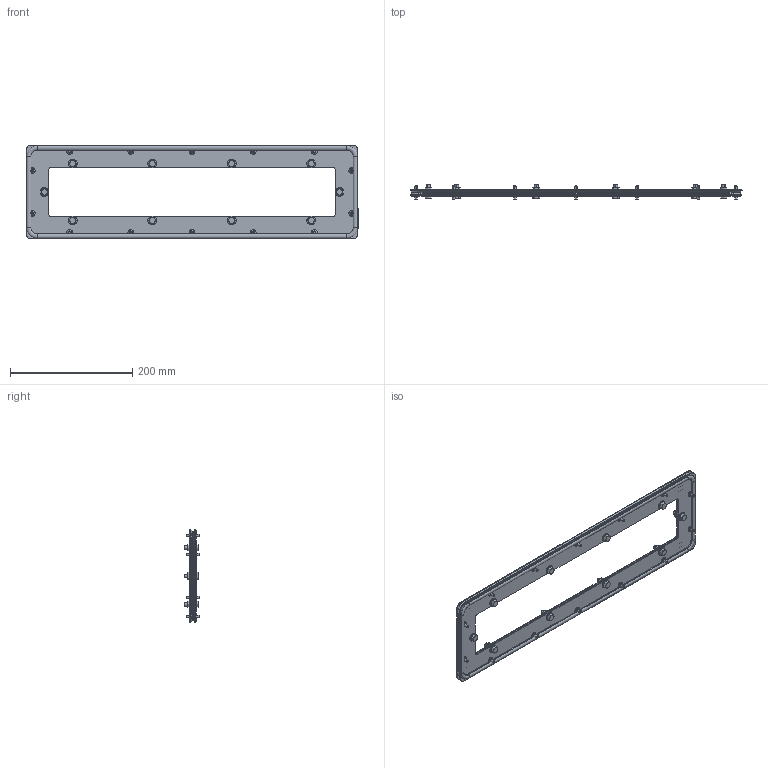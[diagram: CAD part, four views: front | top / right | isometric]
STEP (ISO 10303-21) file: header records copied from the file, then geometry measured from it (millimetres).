
FILE_DESCRIPTION (( 'STEP AP203' ), '1' );
FILE_NAME ('R5RKE03.step', '2024-11-15T06:37:02', ( '' ), ( '' ), 'SwSTEP 2.0', 'SolidWorks 2022', '' );
FILE_SCHEMA (( 'CONFIG_CONTROL_DESIGN' ));
Length unit declared in the file: millimetre
Products named in the file (9): RB.3238.00.00.0 СБ_-02; PF 4x8 flange ST_04; RB.3238.00.01.0_-01; M4x10 DIN 7500 M PZ cl.4,8 Zinc_straight; M6x16 DIN 6921 cl.8,8 Zinc_straight; R5RKE03; RB.3238.00.00.0 СБ_-03; PF 4x8 R5RKE_153x543; M6 DIN 6923 cl.8,0 Zinc_straight
Assembly tree (57 placements, depth 3):
  R5RKE03
    RB.3238.00.00.0 СБ_-02
      RB.3238.00.01.0_-01
      PF 4x8 flange ST_04
    RB.3238.00.00.0 СБ_-03
      RB.3238.00.01.0_-01
      PF 4x8 flange ST_04
      PF 4x8 R5RKE_153x543
    M4x10 DIN 7500 M PZ cl.4,8 Zinc_straight  x28
    M6x16 DIN 6921 cl.8,8 Zinc_straight  x11
    M6 DIN 6923 cl.8,0 Zinc_straight  x11
Bounding box: 543 x 24.5 x 153 mm (x, y, z)
Volume: 239856 mm3; surface area: 286965.5 mm2
Topology: 55 solids, 55 shells, 2147 faces, 4969 edges, 2942 vertices
Faces by surface type: plane 832, cone 642, cylinder 271, torus 262, bspline 140
Entity records: 13239 total; most frequent: CARTESIAN_POINT 2821, DIRECTION 1904, ORIENTED_EDGE 1580, AXIS2_PLACEMENT_3D 817, EDGE_CURVE 790, VERTEX_POINT 482, CIRCLE 436, EDGE_LOOP 406
